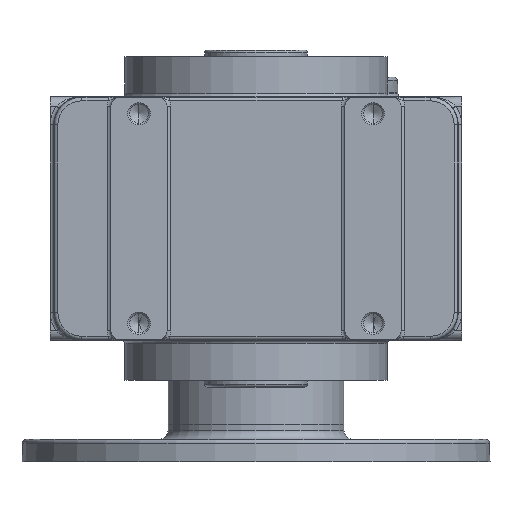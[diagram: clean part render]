
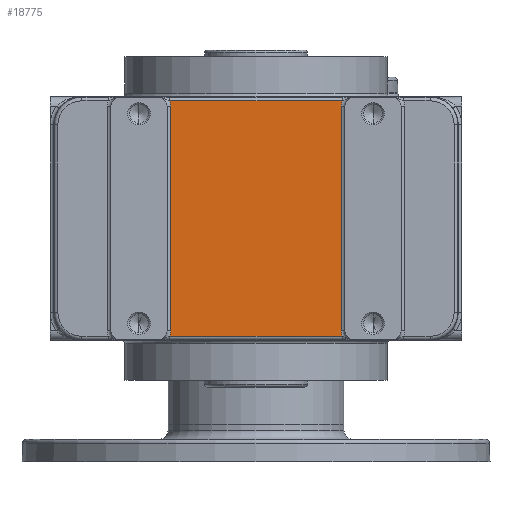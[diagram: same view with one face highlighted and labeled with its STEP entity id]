
A CAD part, front view. The second image highlights one B-rep face of the part: STEP entity #18775.
In plain terms, the highlighted planar face has unit normal (0, -1, 0).
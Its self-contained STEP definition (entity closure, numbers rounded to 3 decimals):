
#18737 = ORIENTED_EDGE ( 'NONE', *, *, #18739, .T. ) ;
#18739 = EDGE_CURVE ( 'NONE', #18799, #18741, #83964, .T. ) ;
#18741 = VERTEX_POINT ( 'NONE', #83960 ) ;
#18743 = ORIENTED_EDGE ( 'NONE', *, *, #18745, .T. ) ;
#18745 = EDGE_CURVE ( 'NONE', #18741, #18747, #83958, .T. ) ;
#18747 = VERTEX_POINT ( 'NONE', #83959 ) ;
#18749 = ORIENTED_EDGE ( 'NONE', *, *, #18751, .T. ) ;
#18751 = EDGE_CURVE ( 'NONE', #18747, #18754, #83952, .T. ) ;
#18754 = VERTEX_POINT ( 'NONE', #83953 ) ;
#18756 = ORIENTED_EDGE ( 'NONE', *, *, #18758, .T. ) ;
#18758 = EDGE_CURVE ( 'NONE', #18754, #18760, #84015, .T. ) ;
#18760 = VERTEX_POINT ( 'NONE', #84011 ) ;
#18762 = ORIENTED_EDGE ( 'NONE', *, *, #18882, .T. ) ;
#18775 = ADVANCED_FACE ( 'NONE', ( #84010 ), #84004, .T. ) ;
#18778 = EDGE_LOOP ( 'NONE', ( #18780, #18789, #18795, #18737, #18743, #18749, #18756, #18762 ) ) ;
#18780 = ORIENTED_EDGE ( 'NONE', *, *, #18782, .T. ) ;
#18782 = EDGE_CURVE ( 'NONE', #18785, #18787, #83999, .T. ) ;
#18785 = VERTEX_POINT ( 'NONE', #83994 ) ;
#18787 = VERTEX_POINT ( 'NONE', #83993 ) ;
#18789 = ORIENTED_EDGE ( 'NONE', *, *, #18791, .T. ) ;
#18791 = EDGE_CURVE ( 'NONE', #18787, #18793, #83991, .T. ) ;
#18793 = VERTEX_POINT ( 'NONE', #83987 ) ;
#18795 = ORIENTED_EDGE ( 'NONE', *, *, #18797, .T. ) ;
#18797 = EDGE_CURVE ( 'NONE', #18793, #18799, #83984, .T. ) ;
#18799 = VERTEX_POINT ( 'NONE', #83728 ) ;
#18882 = EDGE_CURVE ( 'NONE', #18760, #18785, #84044, .T. ) ;
#83726 = DIRECTION ( 'NONE',  ( 0., 0., -1. ) ) ;
#83728 = CARTESIAN_POINT ( 'NONE',  ( 45.517, -98., 5.157 ) ) ;
#83948 = CARTESIAN_POINT ( 'NONE',  ( -52.5, -98., 124.843 ) ) ;
#83949 = DIRECTION ( 'NONE',  ( -1., 0., 0. ) ) ;
#83950 = VECTOR ( 'NONE', #83949, 1000. ) ;
#83951 = CARTESIAN_POINT ( 'NONE',  ( -52.5, -98., 127.86 ) ) ;
#83952 = LINE ( 'NONE', #83951, #83950 ) ;
#83953 = CARTESIAN_POINT ( 'NONE',  ( -46.203, -98., 127.86 ) ) ;
#83954 = DIRECTION ( 'NONE',  ( 0., 0., -1. ) ) ;
#83955 = DIRECTION ( 'NONE',  ( 0., 1., 0. ) ) ;
#83956 = CARTESIAN_POINT ( 'NONE',  ( 52.5, -98., 124.843 ) ) ;
#83957 = AXIS2_PLACEMENT_3D ( 'NONE', #83956, #83955, #83954 ) ;
#83958 = CIRCLE ( 'NONE', #83957, 6.983 ) ;
#83959 = CARTESIAN_POINT ( 'NONE',  ( 46.203, -98., 127.86 ) ) ;
#83960 = CARTESIAN_POINT ( 'NONE',  ( 45.517, -98., 124.843 ) ) ;
#83961 = DIRECTION ( 'NONE',  ( 0., 0., 1. ) ) ;
#83962 = VECTOR ( 'NONE', #83961, 1000. ) ;
#83963 = CARTESIAN_POINT ( 'NONE',  ( 45.517, -98., 115. ) ) ;
#83964 = LINE ( 'NONE', #83963, #83962 ) ;
#83982 = DIRECTION ( 'NONE',  ( 0., 1., 0. ) ) ;
#83983 = AXIS2_PLACEMENT_3D ( 'NONE', #83992, #83982, #83726 ) ;
#83984 = CIRCLE ( 'NONE', #83983, 6.983 ) ;
#83987 = CARTESIAN_POINT ( 'NONE',  ( 46.203, -98., 2.14 ) ) ;
#83988 = DIRECTION ( 'NONE',  ( 1., 0., 0. ) ) ;
#83989 = VECTOR ( 'NONE', #83988, 1000. ) ;
#83990 = CARTESIAN_POINT ( 'NONE',  ( 52.5, -98., 2.14 ) ) ;
#83991 = LINE ( 'NONE', #83990, #83989 ) ;
#83992 = CARTESIAN_POINT ( 'NONE',  ( 52.5, -98., 5.157 ) ) ;
#83993 = CARTESIAN_POINT ( 'NONE',  ( -46.203, -98., 2.14 ) ) ;
#83994 = CARTESIAN_POINT ( 'NONE',  ( -45.517, -98., 5.157 ) ) ;
#83995 = DIRECTION ( 'NONE',  ( 0., 0., -1. ) ) ;
#83996 = DIRECTION ( 'NONE',  ( 0., 1., 0. ) ) ;
#83997 = CARTESIAN_POINT ( 'NONE',  ( -52.5, -98., 5.157 ) ) ;
#83998 = AXIS2_PLACEMENT_3D ( 'NONE', #83997, #83996, #83995 ) ;
#83999 = CIRCLE ( 'NONE', #83998, 6.983 ) ;
#84000 = DIRECTION ( 'NONE',  ( 0., 0., -1. ) ) ;
#84001 = DIRECTION ( 'NONE',  ( 0., -1., 0. ) ) ;
#84002 = CARTESIAN_POINT ( 'NONE',  ( -93., -98., 115. ) ) ;
#84003 = AXIS2_PLACEMENT_3D ( 'NONE', #84002, #84001, #84000 ) ;
#84004 = PLANE ( 'NONE',  #84003 ) ;
#84010 = FACE_OUTER_BOUND ( 'NONE', #18778, .T. ) ;
#84011 = CARTESIAN_POINT ( 'NONE',  ( -45.517, -98., 124.843 ) ) ;
#84012 = DIRECTION ( 'NONE',  ( 0., 0., -1. ) ) ;
#84013 = DIRECTION ( 'NONE',  ( 0., 1., 0. ) ) ;
#84014 = AXIS2_PLACEMENT_3D ( 'NONE', #83948, #84013, #84012 ) ;
#84015 = CIRCLE ( 'NONE', #84014, 6.983 ) ;
#84041 = DIRECTION ( 'NONE',  ( 0., 0., -1. ) ) ;
#84042 = VECTOR ( 'NONE', #84041, 1000. ) ;
#84043 = CARTESIAN_POINT ( 'NONE',  ( -45.517, -98., 115. ) ) ;
#84044 = LINE ( 'NONE', #84043, #84042 ) ;
